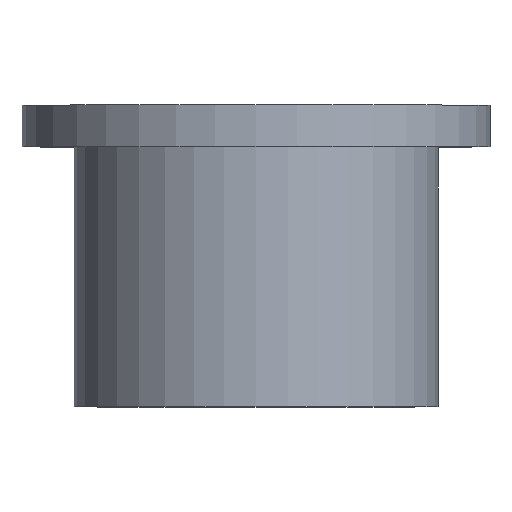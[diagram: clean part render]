
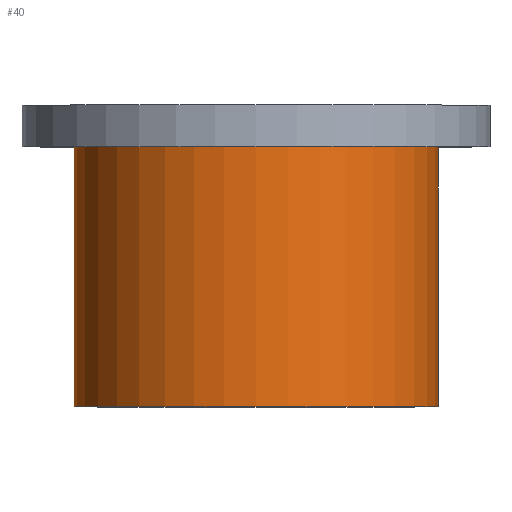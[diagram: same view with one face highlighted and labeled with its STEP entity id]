
A CAD part, top view. The second image highlights one B-rep face of the part: STEP entity #40.
In plain terms, the highlighted cylindrical face has radius 3.5 mm (diameter 7 mm), a full revolution.
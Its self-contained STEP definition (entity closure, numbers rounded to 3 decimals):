
#40 = ADVANCED_FACE( '', ( #79, #80 ), #81, .T. );
#79 = FACE_OUTER_BOUND( '', #110, .T. );
#80 = FACE_OUTER_BOUND( '', #111, .T. );
#81 = CYLINDRICAL_SURFACE( '', #112, 3.5 );
#110 = EDGE_LOOP( '', ( #145 ) );
#111 = EDGE_LOOP( '', ( #146 ) );
#112 = AXIS2_PLACEMENT_3D( '', #147, #148, #149 );
#145 = ORIENTED_EDGE( '', *, *, #155, .T. );
#146 = ORIENTED_EDGE( '', *, *, #151, .F. );
#147 = CARTESIAN_POINT( '', ( 0., 50., 0. ) );
#148 = DIRECTION( '', ( 0., -1., 0. ) );
#149 = DIRECTION( '', ( 0., 0., 1. ) );
#151 = EDGE_CURVE( '', #163, #163, #164, .T. );
#155 = EDGE_CURVE( '', #170, #170, #171, .T. );
#163 = VERTEX_POINT( '', #181 );
#164 = CIRCLE( '', #182, 3.5 );
#170 = VERTEX_POINT( '', #188 );
#171 = CIRCLE( '', #189, 3.5 );
#181 = CARTESIAN_POINT( '', ( 0., 0., 3.5 ) );
#182 = AXIS2_PLACEMENT_3D( '', #198, #199, #200 );
#188 = CARTESIAN_POINT( '', ( 0., -5., 3.5 ) );
#189 = AXIS2_PLACEMENT_3D( '', #207, #208, #209 );
#198 = CARTESIAN_POINT( '', ( 0., 0., 0. ) );
#199 = DIRECTION( '', ( 0., 1., 0. ) );
#200 = DIRECTION( '', ( 0., 0., 1. ) );
#207 = CARTESIAN_POINT( '', ( 0., -5., 0. ) );
#208 = DIRECTION( '', ( 0., 1., 0. ) );
#209 = DIRECTION( '', ( 0., 0., 1. ) );
